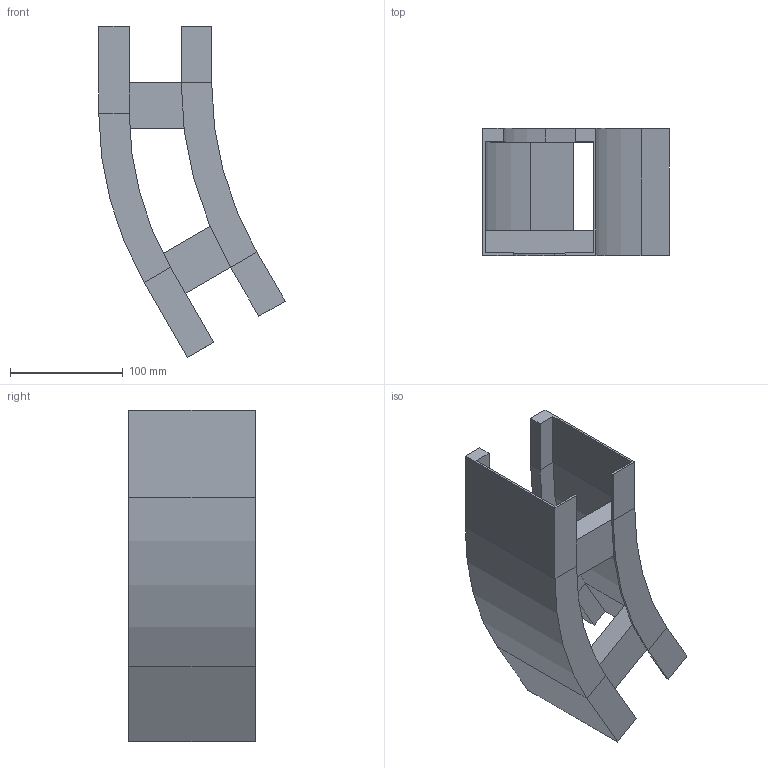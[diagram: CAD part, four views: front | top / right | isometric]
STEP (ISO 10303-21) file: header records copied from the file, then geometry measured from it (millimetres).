
FILE_DESCRIPTION (( 'STEP AP214' ), '1' );
FILE_NAME ('B2_12B3J100.step', '2025-02-21T15:09:20', ( '' ), ( '' ), 'SwSTEP 2.0', 'SolidWorks 2023', '' );
FILE_SCHEMA (( 'AUTOMOTIVE_DESIGN' ));
Length unit declared in the file: millimetre
Products named in the file (4): B2_LONGH.ESTERNO 30°_H112.5_R300+100; B2_12B3J100; B2_LONGH.INTERNO 30°_H112.5_R300; TRAVERSINO_100
Assembly tree (4 placements, depth 2):
  B2_12B3J100
    B2_LONGH.INTERNO 30°_H112.5_R300
    B2_LONGH.ESTERNO 30°_H112.5_R300+100
    TRAVERSINO_100  x2
Bounding box: 165.19 x 112.5 x 293.3 mm (x, y, z)
Volume: 420658.8 mm3; surface area: 204910 mm2
Topology: 4 solids, 4 shells, 64 faces, 136 edges, 80 vertices
Faces by surface type: plane 56, cylinder 8
Entity records: 1637 total; most frequent: DIRECTION 270, CARTESIAN_POINT 261, ORIENTED_EDGE 248, EDGE_CURVE 124, LINE 108, VECTOR 108, AXIS2_PLACEMENT_3D 81, VERTEX_POINT 72
